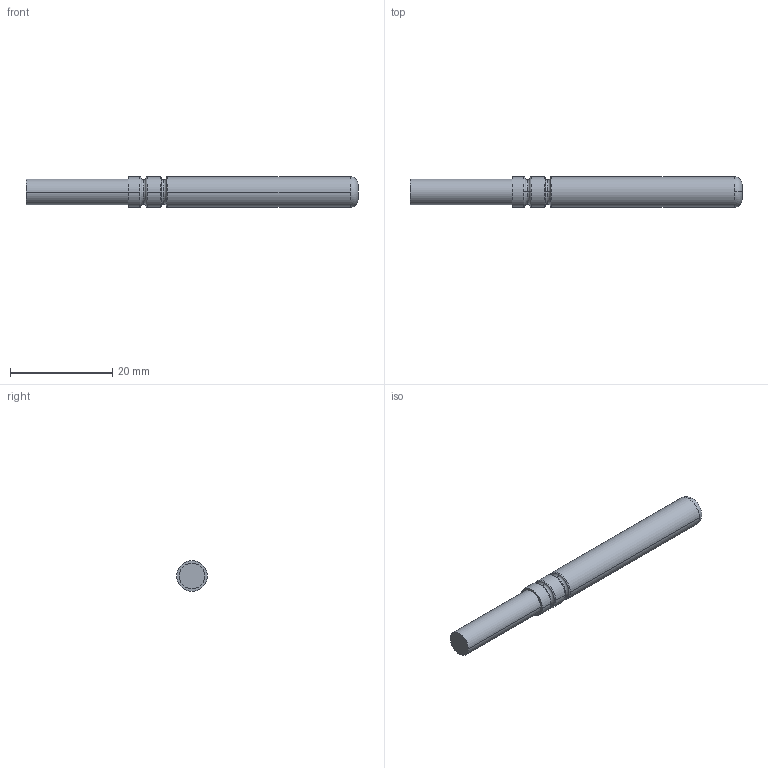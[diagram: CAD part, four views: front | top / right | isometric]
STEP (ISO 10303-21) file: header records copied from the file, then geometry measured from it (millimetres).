
FILE_DESCRIPTION( ( '' ), '1' );
FILE_NAME( '//expscmdclustefs.cadenas.external/client_exchange/iodir/jobs/output/wkb39666029_no0/STEP/ts2251_2_03_56fa68aab0d912ba39a93ed9979b71de.stp', '2011-12-01T10:15:46', ( '' ), ( '' ), ' ', ' ', ' ' );
FILE_SCHEMA( ( 'CONFIG_CONTROL_DESIGN' ) );
Length unit declared in the file: millimetre
Products named in the file (1): 1
Bounding box: 65 x 6 x 6 mm (x, y, z)
Volume: 1637.8 mm3; surface area: 1222.7 mm2
Topology: 1 solids, 1 shells, 29 faces, 71 edges, 45 vertices
Faces by surface type: torus 18, cylinder 8, plane 3
Entity records: 936 total; most frequent: DIRECTION 194, CARTESIAN_POINT 146, ORIENTED_EDGE 142, AXIS2_PLACEMENT_3D 93, EDGE_CURVE 71, CIRCLE 63, VERTEX_POINT 45, EDGE_LOOP 30
